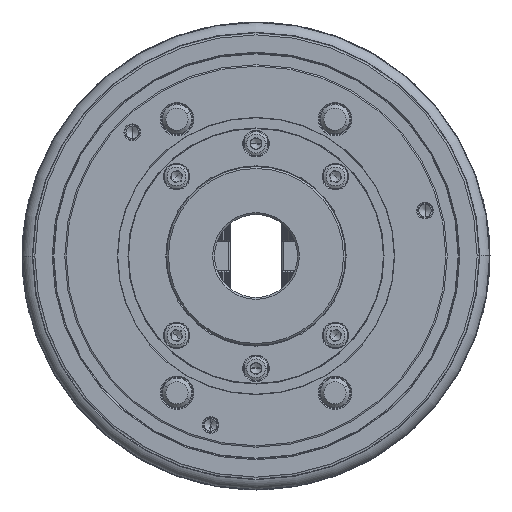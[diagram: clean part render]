
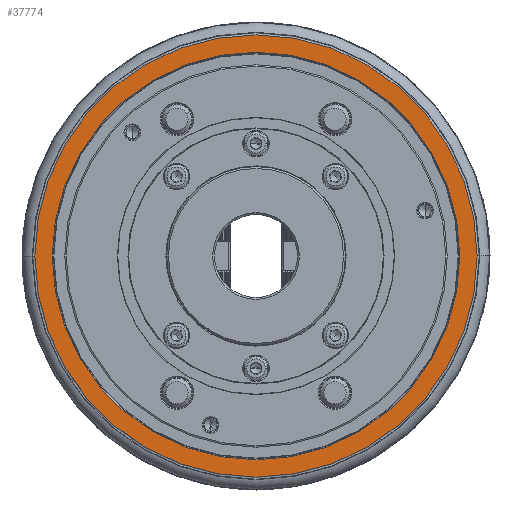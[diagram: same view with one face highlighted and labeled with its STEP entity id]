
A CAD part, left-side view. The second image highlights one B-rep face of the part: STEP entity #37774.
In plain terms, the highlighted planar face has unit normal (-1, 0, 0) as drawn and (0, 0, -1) by its records, which use the part's own axes.
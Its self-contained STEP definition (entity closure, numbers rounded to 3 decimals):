
#129 = CARTESIAN_POINT ( 'NONE',  ( 0., 0., -100. ) ) ;
#385 = EDGE_CURVE ( 'NONE', #70366, #66297, #41948, .T. ) ;
#4639 = VERTEX_POINT ( 'NONE', #16779 ) ;
#4832 = AXIS2_PLACEMENT_3D ( 'NONE', #18530, #64090, #44738 ) ;
#8626 = CARTESIAN_POINT ( 'NONE',  ( 0., 0., -100. ) ) ;
#10235 = CARTESIAN_POINT ( 'NONE',  ( 0., 0., -100. ) ) ;
#12021 = EDGE_CURVE ( 'NONE', #41220, #4639, #81694, .T. ) ;
#14112 = DIRECTION ( 'NONE',  ( -1., 0., 0. ) ) ;
#16779 = CARTESIAN_POINT ( 'NONE',  ( 0., 120., -100. ) ) ;
#17919 = AXIS2_PLACEMENT_3D ( 'NONE', #39519, #21432, #14112 ) ;
#18530 = CARTESIAN_POINT ( 'NONE',  ( 0., 0., -100. ) ) ;
#20214 = CIRCLE ( 'NONE', #61352, 120. ) ;
#21432 = DIRECTION ( 'NONE',  ( 0., 0., -1. ) ) ;
#24080 = FACE_BOUND ( 'NONE', #41557, .T. ) ;
#26500 = CARTESIAN_POINT ( 'NONE',  ( -110.6, 0., -100. ) ) ;
#27961 = CIRCLE ( 'NONE', #70542, 110.6 ) ;
#33165 = DIRECTION ( 'NONE',  ( 0., 0., 1. ) ) ;
#34434 = DIRECTION ( 'NONE',  ( 1., 0., 0. ) ) ;
#35926 = CARTESIAN_POINT ( 'NONE',  ( 0., -120., -100. ) ) ;
#37774 = ADVANCED_FACE ( 'NONE', ( #45097, #24080 ), #76929, .T. ) ;
#39519 = CARTESIAN_POINT ( 'NONE',  ( 110.6, 0., -100. ) ) ;
#41220 = VERTEX_POINT ( 'NONE', #35926 ) ;
#41557 = EDGE_LOOP ( 'NONE', ( #84520, #78262 ) ) ;
#41948 = CIRCLE ( 'NONE', #48785, 110.6 ) ;
#42890 = DIRECTION ( 'NONE',  ( 0., 0., 1. ) ) ;
#42982 = EDGE_CURVE ( 'NONE', #66297, #70366, #27961, .T. ) ;
#44738 = DIRECTION ( 'NONE',  ( 0., 1., 0. ) ) ;
#45097 = FACE_OUTER_BOUND ( 'NONE', #52991, .T. ) ;
#45345 = ORIENTED_EDGE ( 'NONE', *, *, #12021, .F. ) ;
#48785 = AXIS2_PLACEMENT_3D ( 'NONE', #129, #53799, #78784 ) ;
#51220 = CARTESIAN_POINT ( 'NONE',  ( 110.6, 0., -100. ) ) ;
#52991 = EDGE_LOOP ( 'NONE', ( #73573, #45345 ) ) ;
#53799 = DIRECTION ( 'NONE',  ( 0., 0., 1. ) ) ;
#56205 = DIRECTION ( 'NONE',  ( 0., 1., 0. ) ) ;
#61352 = AXIS2_PLACEMENT_3D ( 'NONE', #10235, #42890, #56205 ) ;
#64090 = DIRECTION ( 'NONE',  ( 0., 0., 1. ) ) ;
#66297 = VERTEX_POINT ( 'NONE', #26500 ) ;
#70366 = VERTEX_POINT ( 'NONE', #51220 ) ;
#70542 = AXIS2_PLACEMENT_3D ( 'NONE', #8626, #33165, #34434 ) ;
#73573 = ORIENTED_EDGE ( 'NONE', *, *, #77257, .F. ) ;
#76929 = PLANE ( 'NONE',  #17919 ) ;
#77257 = EDGE_CURVE ( 'NONE', #4639, #41220, #20214, .T. ) ;
#78262 = ORIENTED_EDGE ( 'NONE', *, *, #385, .T. ) ;
#78784 = DIRECTION ( 'NONE',  ( 1., 0., 0. ) ) ;
#81694 = CIRCLE ( 'NONE', #4832, 120. ) ;
#84520 = ORIENTED_EDGE ( 'NONE', *, *, #42982, .T. ) ;
